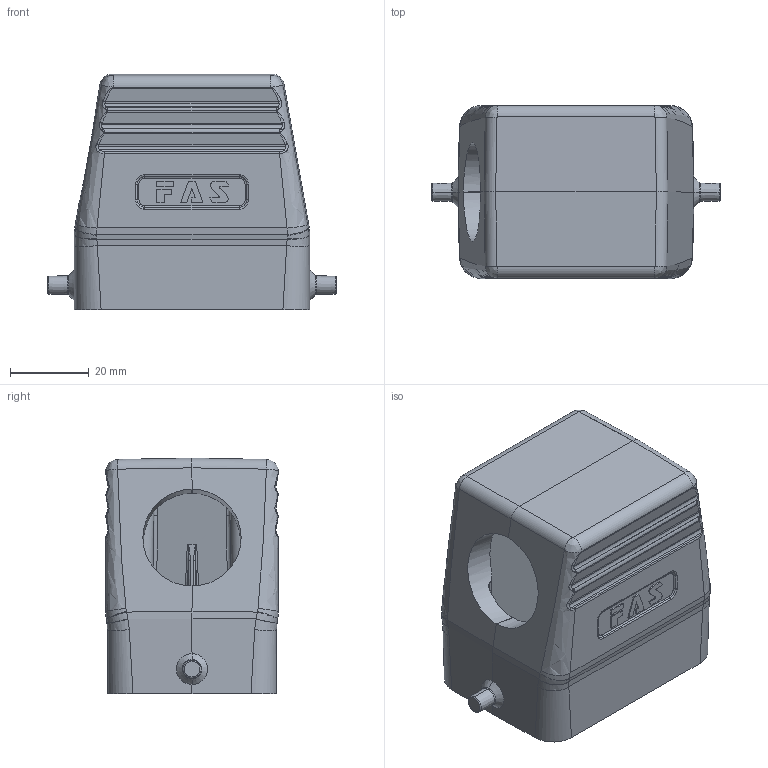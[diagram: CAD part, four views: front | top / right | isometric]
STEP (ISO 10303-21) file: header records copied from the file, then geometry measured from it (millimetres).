
FILE_DESCRIPTION (( 'STEP AP203' ), '1' );
FILE_NAME ('H6B-TG-M25.STEP', '2020-07-01T05:08:52', ( '' ), ( '' ), 'SwSTEP 2.0', 'SolidWorks 2016', '' );
FILE_SCHEMA (( 'CONFIG_CONTROL_DESIGN' ));
Length unit declared in the file: millimetre
Products named in the file (1): H6B-TG-M25
Bounding box: 73.4 x 44 x 60 mm (x, y, z)
Volume: 51080.7 mm3; surface area: 24198.8 mm2
Topology: 1 solids, 1 shells, 480 faces, 1171 edges, 710 vertices
Faces by surface type: bspline 158, cylinder 149, plane 141, cone 32
Entity records: 22708 total; most frequent: CARTESIAN_POINT 12856, ORIENTED_EDGE 2342, DIRECTION 1610, EDGE_CURVE 1171, VERTEX_POINT 710, AXIS2_PLACEMENT_3D 569, EDGE_LOOP 499, FACE_OUTER_BOUND 480
